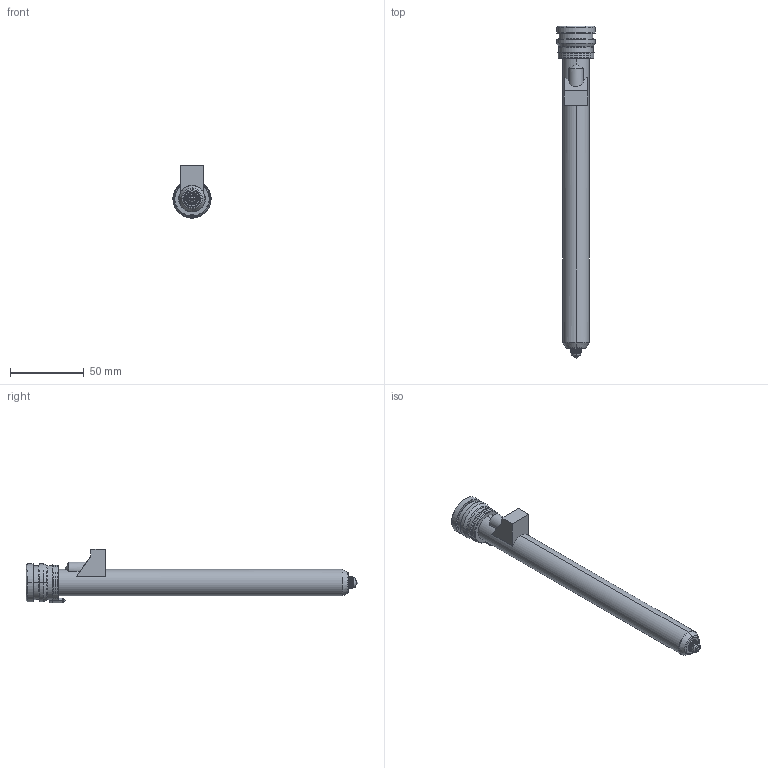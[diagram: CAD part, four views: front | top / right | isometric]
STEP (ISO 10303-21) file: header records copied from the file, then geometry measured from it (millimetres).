
FILE_DESCRIPTION((''),'2;1');
FILE_NAME('TH18207_5-M-1B15-PK-JG','2023-12-14T',('umhib'),('Thermoplay S.p.A.'),'PRO/ENGINEER BY PARAMETRIC TECHNOLOGY CORPORATION, 2017170','PRO/ENGINEER BY PARAMETRIC TECHNOLOGY CORPORATION, 2017170','');
FILE_SCHEMA(('CONFIG_CONTROL_DESIGN'));
Length unit declared in the file: millimetre
Products named in the file (1): TH18207_5-M-1B15-PK-JG
Bounding box: 26 x 225.5 x 36.1 mm (x, y, z)
Volume: 44132.5 mm3; surface area: 33070.2 mm2
Topology: 1 solids, 2 shells, 393 faces, 1003 edges, 615 vertices
Faces by surface type: cylinder 149, plane 87, cone 64, torus 58, bspline 22, sphere 11, extrusion 2
Entity records: 16869 total; most frequent: CARTESIAN_POINT 5186, DIRECTION 2010, ORIENTED_EDGE 1980, EDGE_CURVE 992, AXIS2_PLACEMENT_3D 810, VERTEX_POINT 615, CIRCLE 440, EDGE_LOOP 416
